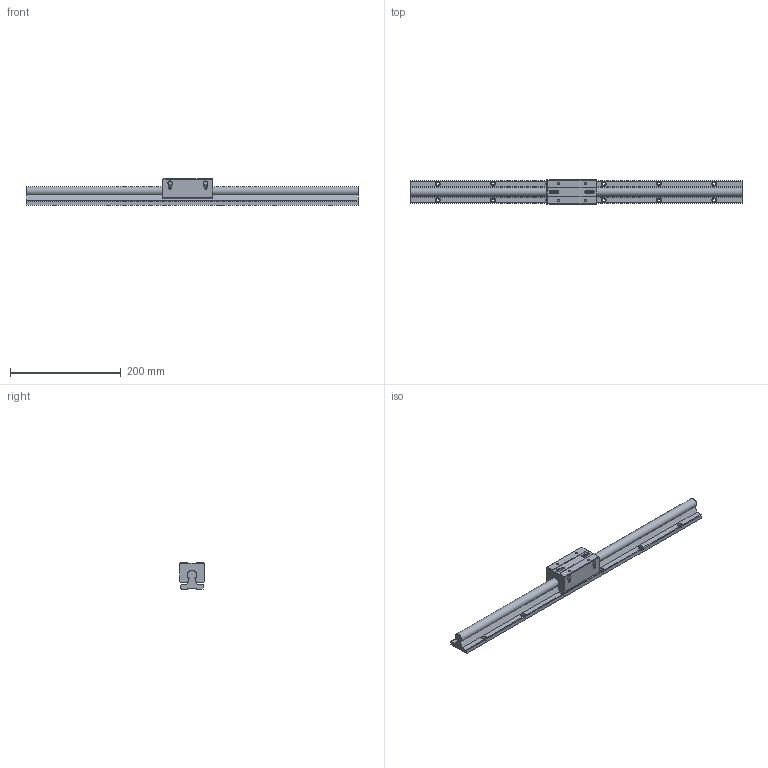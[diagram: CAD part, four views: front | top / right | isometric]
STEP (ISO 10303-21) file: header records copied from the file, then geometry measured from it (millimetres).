
FILE_DESCRIPTION((''),'2;1');
FILE_NAME('D:\製品 (図面)\カタログ用3D\リニアガイド関連\STEP形式\SLGW\SLGW16.stp','2010-06-02T16:57:14',('Tsuchiya'),(''),'Autodesk Inventor 10','Autodesk Inventor 10','');
FILE_SCHEMA(('AUTOMOTIVE_DESIGN { 1 0 10303 214 1 1 1 1 }'));
Length unit declared in the file: millimetre
Products named in the file (3): SLGW16; SLGW161; SLGW162
Assembly tree (2 placements, depth 2):
  SLGW16
    SLGW161
    SLGW162
Bounding box: 600 x 45 x 47 mm (x, y, z)
Volume: 491238.1 mm3; surface area: 112950.8 mm2
Topology: 2 solids, 2 shells, 239 faces, 589 edges, 382 vertices
Faces by surface type: bspline 109, plane 76, cylinder 31, cone 20, torus 3
Full cylindrical faces by diameter (mm): 4.134 x2, 5 x3, 5.5 x3, 6.5 x3, 8 x3, 13 x3
Entity records: 7695 total; most frequent: CARTESIAN_POINT 2905, ORIENTED_EDGE 918, DIRECTION 849, EDGE_CURVE 459, EDGE_LOOP 391, VERTEX_POINT 344, AXIS2_PLACEMENT_3D 321, FACE_OUTER_BOUND 239
